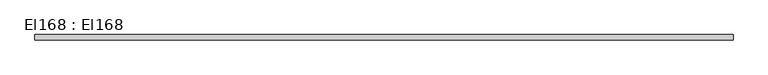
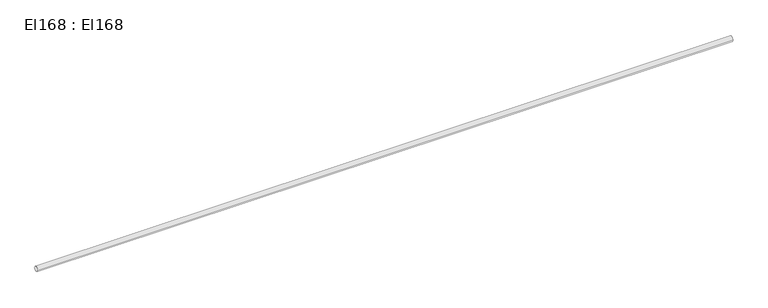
"""IFC4 building model written with IfcOpenShell, lengths in millimetres: cable carrier segment geometry, El168 : El168."""

from ifc_helpers import new_model, si_unit, point, frame, frame_2d, origin, place, context, project, spatial, circle_curve, trimmed, segment, composite_curve, outline, extrude, source, transform, mapped, element, save


def el168_el168_f9f87a88(model_context):
    return source(origin(), model_context, "Body", "SweptSolid", [
        extrude(outline(composite_curve([segment(trimmed(circle_curve(frame_2d((30922.2, 2950.0)), 9.5), [point((30912.7, 2950.0))], [point((30931.7, 2950.0))], False, "CARTESIAN"), True, "CONTINUOUS"), segment(trimmed(circle_curve(frame_2d((30922.2, 2950.0)), 9.5), [point((30931.7, 2950.0))], [point((30912.7, 2950.0))], False, "CARTESIAN"), True, "CONTINUOUS")], self_intersect=False)), frame((2663.3, 0.0, 0.0), z_axis=(1.0, 0.0, 0.0), x_axis=(0.0, 1.0, 0.0)), (0.0, 0.0, 1.0), 2525.0),
    ])


if __name__ == "__main__":
    model = new_model("IFC4")
    model_context = context("Model", 3, world=origin())
    ifc_project = project(units=[si_unit("LENGTHUNIT", "METRE", prefix="MILLI")], contexts=[model_context])
    site = spatial("IfcSite", under=ifc_project)
    building = spatial("IfcBuilding", under=site)
    placement = place(None, origin())
    el168_el168_shape = el168_el168_f9f87a88(model_context)
    element("IfcCableCarrierSegment", 1, ObjectType="El168 : El168", at=placement, inside=building, context=model_context, shape_type="MappedRepresentation", body=[
        mapped(el168_el168_shape, transform((0.0, 0.0, 0.0), x_axis=(1.0, 0.0, 0.0), y_axis=(0.0, 1.0, 0.0), z_axis=(0.0, 0.0, 1.0))),
    ])
    save(model, "model.ifc")
